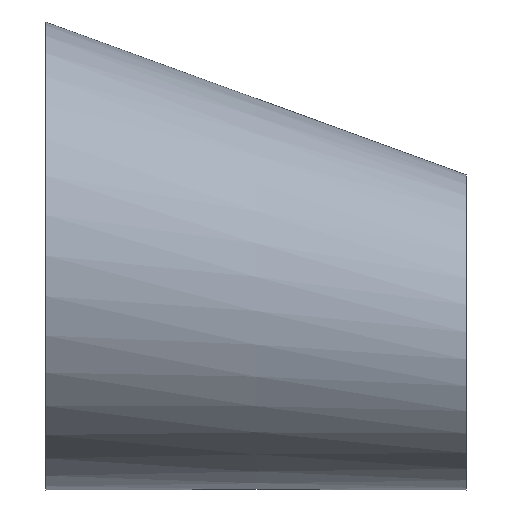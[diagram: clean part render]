
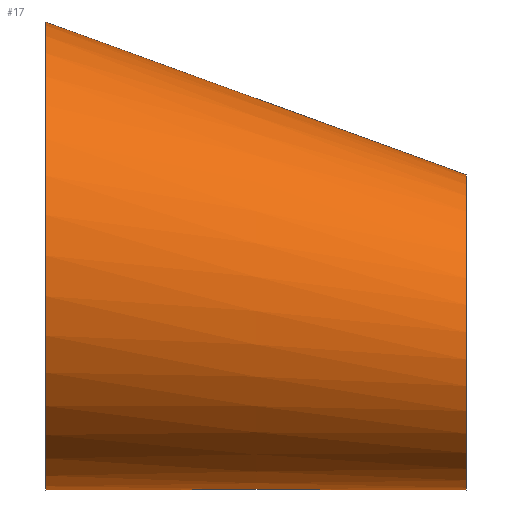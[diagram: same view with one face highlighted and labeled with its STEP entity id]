
A CAD part, top view. The second image highlights one B-rep face of the part: STEP entity #17.
In plain terms, the highlighted free-form (B-spline) face has degree [14, 1] with [28, 2] control points.
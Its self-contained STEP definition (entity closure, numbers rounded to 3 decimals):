
#17 = ADVANCED_FACE('',(#18),#31,.T.);
#18 = FACE_BOUND('',#19,.T.);
#19 = EDGE_LOOP('',(#20,#106,#128,#155));
#20 = ORIENTED_EDGE('',*,*,#21,.T.);
#21 = EDGE_CURVE('',#22,#22,#24,.T.);
#22 = VERTEX_POINT('',#23);
#23 = CARTESIAN_POINT('',(0.,52.,0.));
#24 = SURFACE_CURVE('',#25,(#30,#94),.PCURVE_S1.);
#25 = CIRCLE('',#26,52.);
#26 = AXIS2_PLACEMENT_3D('',#27,#28,#29);
#27 = CARTESIAN_POINT('',(0.,0.,0.));
#28 = DIRECTION('',(1.,0.,0.));
#29 = DIRECTION('',(0.,1.,0.));
#30 = PCURVE('',#31,#88);
#31 = B_SPLINE_SURFACE_WITH_KNOTS('',14,1,(
    (#32,#33)
    ,(#34,#35)
    ,(#36,#37)
    ,(#38,#39)
    ,(#40,#41)
    ,(#42,#43)
    ,(#44,#45)
    ,(#46,#47)
    ,(#48,#49)
    ,(#50,#51)
    ,(#52,#53)
    ,(#54,#55)
    ,(#56,#57)
    ,(#58,#59)
    ,(#60,#61)
    ,(#62,#63)
    ,(#64,#65)
    ,(#66,#67)
    ,(#68,#69)
    ,(#70,#71)
    ,(#72,#73)
    ,(#74,#75)
    ,(#76,#77)
    ,(#78,#79)
    ,(#80,#81)
    ,(#82,#83)
    ,(#84,#85)
    ,(#86,#87
    )),.UNSPECIFIED.,.T.,.F.,.F.,(15,13,15),(2,2),(0.,3.142,
    6.283),(0.,1.),.UNSPECIFIED.);
#32 = CARTESIAN_POINT('',(0.,52.,0.));
#33 = CARTESIAN_POINT('',(93.5,18.,0.));
#34 = CARTESIAN_POINT('',(0.,52.,11.669));
#35 = CARTESIAN_POINT('',(93.5,18.,7.854
    ));
#36 = CARTESIAN_POINT('',(0.,49.18,23.338));
#37 = CARTESIAN_POINT('',(93.5,16.102,
    15.708));
#38 = CARTESIAN_POINT('',(0.,43.54,34.268));
#39 = CARTESIAN_POINT('',(93.5,12.306,
    23.065));
#40 = CARTESIAN_POINT('',(0.,35.292,43.722));
#41 = CARTESIAN_POINT('',(93.5,6.754,29.428
    ));
#42 = CARTESIAN_POINT('',(0.,24.855,51.028));
#43 = CARTESIAN_POINT('',(93.5,-0.27,
    34.346));
#44 = CARTESIAN_POINT('',(0.,12.841,55.645));
#45 = CARTESIAN_POINT('',(93.5,-8.357,37.453));
#46 = CARTESIAN_POINT('',(0.,0.,57.225));
#47 = CARTESIAN_POINT('',(93.5,-17.,
    38.517));
#48 = CARTESIAN_POINT('',(0.,-12.841,55.645));
#49 = CARTESIAN_POINT('',(93.5,-25.643,37.453));
#50 = CARTESIAN_POINT('',(0.,-24.855,51.028));
#51 = CARTESIAN_POINT('',(93.5,-33.73,34.346));
#52 = CARTESIAN_POINT('',(0.,-35.292,43.722));
#53 = CARTESIAN_POINT('',(93.5,-40.754,29.428));
#54 = CARTESIAN_POINT('',(0.,-43.54,34.268));
#55 = CARTESIAN_POINT('',(93.5,-46.306,23.065));
#56 = CARTESIAN_POINT('',(0.,-49.18,23.338));
#57 = CARTESIAN_POINT('',(93.5,-50.102,15.708));
#58 = CARTESIAN_POINT('',(0.,-52.,11.669));
#59 = CARTESIAN_POINT('',(93.5,-52.,7.854));
#60 = CARTESIAN_POINT('',(0.,-52.,-11.669));
#61 = CARTESIAN_POINT('',(93.5,-52.,-7.854));
#62 = CARTESIAN_POINT('',(0.,-49.18,-23.338));
#63 = CARTESIAN_POINT('',(93.5,-50.102,-15.708));
#64 = CARTESIAN_POINT('',(0.,-43.54,-34.268));
#65 = CARTESIAN_POINT('',(93.5,-46.306,-23.065));
#66 = CARTESIAN_POINT('',(0.,-35.292,-43.722));
#67 = CARTESIAN_POINT('',(93.5,-40.754,-29.428));
#68 = CARTESIAN_POINT('',(0.,-24.855,-51.028));
#69 = CARTESIAN_POINT('',(93.5,-33.73,-34.346));
#70 = CARTESIAN_POINT('',(0.,-12.841,-55.645));
#71 = CARTESIAN_POINT('',(93.5,-25.643,-37.453));
#72 = CARTESIAN_POINT('',(0.,0.,-57.225));
#73 = CARTESIAN_POINT('',(93.5,-17.,-38.517));
#74 = CARTESIAN_POINT('',(0.,12.841,-55.645));
#75 = CARTESIAN_POINT('',(93.5,-8.357,
    -37.453));
#76 = CARTESIAN_POINT('',(0.,24.855,-51.028));
#77 = CARTESIAN_POINT('',(93.5,-0.27,
    -34.346));
#78 = CARTESIAN_POINT('',(0.,35.292,-43.722));
#79 = CARTESIAN_POINT('',(93.5,6.754,-29.428
    ));
#80 = CARTESIAN_POINT('',(0.,43.54,-34.268));
#81 = CARTESIAN_POINT('',(93.5,12.306,
    -23.065));
#82 = CARTESIAN_POINT('',(0.,49.18,-23.338));
#83 = CARTESIAN_POINT('',(93.5,16.102,-15.708)
  );
#84 = CARTESIAN_POINT('',(0.,52.,-11.669));
#85 = CARTESIAN_POINT('',(93.5,18.,
    -7.854));
#86 = CARTESIAN_POINT('',(0.,52.,0.));
#87 = CARTESIAN_POINT('',(93.5,18.,0.));
#88 = DEFINITIONAL_REPRESENTATION('',(#89),#93);
#89 = LINE('',#90,#91);
#90 = CARTESIAN_POINT('',(0.,0.));
#91 = VECTOR('',#92,1.);
#92 = DIRECTION('',(1.,0.));
#93 = ( GEOMETRIC_REPRESENTATION_CONTEXT(2) 
PARAMETRIC_REPRESENTATION_CONTEXT() REPRESENTATION_CONTEXT('2D SPACE',''
  ) );
#94 = PCURVE('',#95,#100);
#95 = PLANE('',#96);
#96 = AXIS2_PLACEMENT_3D('',#97,#98,#99);
#97 = CARTESIAN_POINT('',(0.,0.,0.));
#98 = DIRECTION('',(1.,0.,0.));
#99 = DIRECTION('',(0.,1.,0.));
#100 = DEFINITIONAL_REPRESENTATION('',(#101),#105);
#101 = CIRCLE('',#102,52.);
#102 = AXIS2_PLACEMENT_2D('',#103,#104);
#103 = CARTESIAN_POINT('',(0.,0.));
#104 = DIRECTION('',(1.,0.));
#105 = ( GEOMETRIC_REPRESENTATION_CONTEXT(2) 
PARAMETRIC_REPRESENTATION_CONTEXT() REPRESENTATION_CONTEXT('2D SPACE',''
  ) );
#106 = ORIENTED_EDGE('',*,*,#107,.T.);
#107 = EDGE_CURVE('',#22,#108,#110,.T.);
#108 = VERTEX_POINT('',#109);
#109 = CARTESIAN_POINT('',(93.5,18.,0.));
#110 = SEAM_CURVE('',#111,(#114,#121),.PCURVE_S1.);
#111 = B_SPLINE_CURVE_WITH_KNOTS('',1,(#112,#113),.UNSPECIFIED.,.F.,.F.,
  (2,2),(0.,1.),.PIECEWISE_BEZIER_KNOTS.);
#112 = CARTESIAN_POINT('',(0.,52.,0.));
#113 = CARTESIAN_POINT('',(93.5,18.,0.));
#114 = PCURVE('',#31,#115);
#115 = DEFINITIONAL_REPRESENTATION('',(#116),#120);
#116 = LINE('',#117,#118);
#117 = CARTESIAN_POINT('',(6.283,0.));
#118 = VECTOR('',#119,1.);
#119 = DIRECTION('',(0.,1.));
#120 = ( GEOMETRIC_REPRESENTATION_CONTEXT(2) 
PARAMETRIC_REPRESENTATION_CONTEXT() REPRESENTATION_CONTEXT('2D SPACE',''
  ) );
#121 = PCURVE('',#31,#122);
#122 = DEFINITIONAL_REPRESENTATION('',(#123),#127);
#123 = LINE('',#124,#125);
#124 = CARTESIAN_POINT('',(0.,0.));
#125 = VECTOR('',#126,1.);
#126 = DIRECTION('',(0.,1.));
#127 = ( GEOMETRIC_REPRESENTATION_CONTEXT(2) 
PARAMETRIC_REPRESENTATION_CONTEXT() REPRESENTATION_CONTEXT('2D SPACE',''
  ) );
#128 = ORIENTED_EDGE('',*,*,#129,.F.);
#129 = EDGE_CURVE('',#108,#108,#130,.T.);
#130 = SURFACE_CURVE('',#131,(#136,#143),.PCURVE_S1.);
#131 = CIRCLE('',#132,35.);
#132 = AXIS2_PLACEMENT_3D('',#133,#134,#135);
#133 = CARTESIAN_POINT('',(93.5,-17.,0.));
#134 = DIRECTION('',(1.,0.,0.));
#135 = DIRECTION('',(0.,1.,0.));
#136 = PCURVE('',#31,#137);
#137 = DEFINITIONAL_REPRESENTATION('',(#138),#142);
#138 = LINE('',#139,#140);
#139 = CARTESIAN_POINT('',(0.,1.));
#140 = VECTOR('',#141,1.);
#141 = DIRECTION('',(1.,0.));
#142 = ( GEOMETRIC_REPRESENTATION_CONTEXT(2) 
PARAMETRIC_REPRESENTATION_CONTEXT() REPRESENTATION_CONTEXT('2D SPACE',''
  ) );
#143 = PCURVE('',#144,#149);
#144 = PLANE('',#145);
#145 = AXIS2_PLACEMENT_3D('',#146,#147,#148);
#146 = CARTESIAN_POINT('',(93.5,-17.,0.));
#147 = DIRECTION('',(1.,0.,0.));
#148 = DIRECTION('',(0.,1.,0.));
#149 = DEFINITIONAL_REPRESENTATION('',(#150),#154);
#150 = CIRCLE('',#151,35.);
#151 = AXIS2_PLACEMENT_2D('',#152,#153);
#152 = CARTESIAN_POINT('',(0.,0.));
#153 = DIRECTION('',(1.,0.));
#154 = ( GEOMETRIC_REPRESENTATION_CONTEXT(2) 
PARAMETRIC_REPRESENTATION_CONTEXT() REPRESENTATION_CONTEXT('2D SPACE',''
  ) );
#155 = ORIENTED_EDGE('',*,*,#107,.F.);
